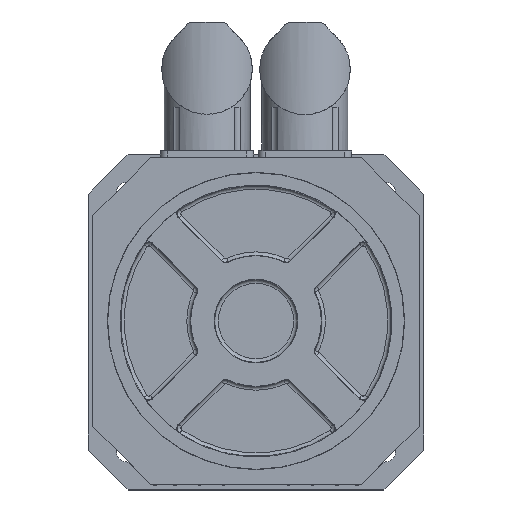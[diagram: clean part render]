
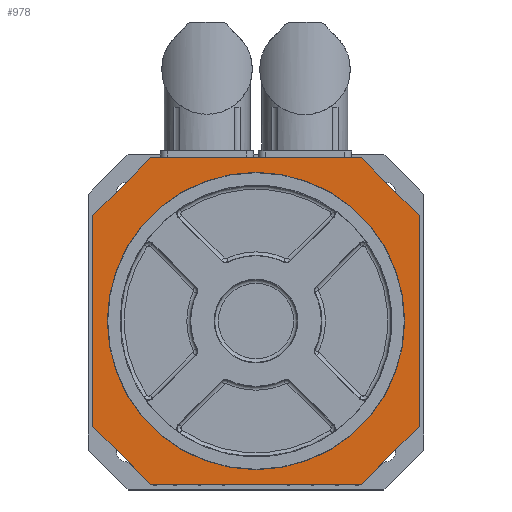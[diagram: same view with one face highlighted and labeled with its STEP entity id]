
A CAD part, top view. The second image highlights one B-rep face of the part: STEP entity #978.
In plain terms, the highlighted planar face has unit normal (0, 0, 1).
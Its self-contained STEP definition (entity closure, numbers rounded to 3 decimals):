
#689=FACE_BOUND('',#2008,.T.);
#785=PLANE('',#7645);
#978=ADVANCED_FACE('',(#689,#1589),#785,.T.);
#1589=FACE_OUTER_BOUND('',#2009,.T.);
#2008=EDGE_LOOP('',(#3912));
#2009=EDGE_LOOP('',(#3913,#3914,#3915,#3916,#3917,#3918,#3919,#3920));
#2498=LINE('',#11057,#2922);
#2499=LINE('',#11060,#2923);
#2500=LINE('',#11062,#2924);
#2501=LINE('',#11064,#2925);
#2502=LINE('',#11066,#2926);
#2503=LINE('',#11068,#2927);
#2504=LINE('',#11070,#2928);
#2505=LINE('',#11072,#2929);
#2922=VECTOR('',#8945,1.);
#2923=VECTOR('',#8946,1.);
#2924=VECTOR('',#8947,1.);
#2925=VECTOR('',#8948,1.);
#2926=VECTOR('',#8949,1.);
#2927=VECTOR('',#8950,1.);
#2928=VECTOR('',#8951,1.);
#2929=VECTOR('',#8952,1.);
#3912=ORIENTED_EDGE('',*,*,#6310,.F.);
#3913=ORIENTED_EDGE('',*,*,#6311,.F.);
#3914=ORIENTED_EDGE('',*,*,#6312,.T.);
#3915=ORIENTED_EDGE('',*,*,#6313,.F.);
#3916=ORIENTED_EDGE('',*,*,#6314,.T.);
#3917=ORIENTED_EDGE('',*,*,#6315,.F.);
#3918=ORIENTED_EDGE('',*,*,#6316,.F.);
#3919=ORIENTED_EDGE('',*,*,#6317,.F.);
#3920=ORIENTED_EDGE('',*,*,#6318,.F.);
#5496=VERTEX_POINT('',#11056);
#5497=VERTEX_POINT('',#11058);
#5498=VERTEX_POINT('',#11059);
#5499=VERTEX_POINT('',#11061);
#5500=VERTEX_POINT('',#11063);
#5501=VERTEX_POINT('',#11065);
#5502=VERTEX_POINT('',#11067);
#5503=VERTEX_POINT('',#11069);
#5504=VERTEX_POINT('',#11071);
#6310=EDGE_CURVE('',#5496,#5496,#7108,.T.);
#6311=EDGE_CURVE('',#5497,#5498,#2498,.T.);
#6312=EDGE_CURVE('',#5497,#5499,#2499,.T.);
#6313=EDGE_CURVE('',#5500,#5499,#2500,.T.);
#6314=EDGE_CURVE('',#5500,#5501,#2501,.T.);
#6315=EDGE_CURVE('',#5502,#5501,#2502,.T.);
#6316=EDGE_CURVE('',#5503,#5502,#2503,.T.);
#6317=EDGE_CURVE('',#5504,#5503,#2504,.T.);
#6318=EDGE_CURVE('',#5498,#5504,#2505,.T.);
#7108=CIRCLE('',#7644,41.);
#7644=AXIS2_PLACEMENT_3D('',#11055,#8943,#8944);
#7645=AXIS2_PLACEMENT_3D('',#11073,#8953,#8954);
#8943=DIRECTION('',(0.,0.,1.));
#8944=DIRECTION('',(1.,0.,0.));
#8945=DIRECTION('',(1.,0.,0.));
#8946=DIRECTION('',(-0.707,-0.707,0.));
#8947=DIRECTION('',(0.,1.,0.));
#8948=DIRECTION('',(0.707,-0.707,0.));
#8949=DIRECTION('',(-1.,0.,0.));
#8950=DIRECTION('',(-0.707,-0.707,0.));
#8951=DIRECTION('',(0.,-1.,0.));
#8952=DIRECTION('',(0.707,-0.707,0.));
#8953=DIRECTION('',(0.,0.,1.));
#8954=DIRECTION('',(1.,0.,0.));
#11055=CARTESIAN_POINT('',(0.,0.,-3.1));
#11056=CARTESIAN_POINT('',(41.,0.,-3.1));
#11057=CARTESIAN_POINT('',(0.,45.,-3.1));
#11058=CARTESIAN_POINT('',(-29.105,45.,-3.1));
#11059=CARTESIAN_POINT('',(29.105,45.,-3.1));
#11060=CARTESIAN_POINT('',(-37.052,37.052,-3.1));
#11061=CARTESIAN_POINT('',(-45.,29.105,-3.1));
#11062=CARTESIAN_POINT('',(-45.,0.,-3.1));
#11063=CARTESIAN_POINT('',(-45.,-29.105,-3.1));
#11064=CARTESIAN_POINT('',(-37.052,-37.052,-3.1));
#11065=CARTESIAN_POINT('',(-29.105,-45.,-3.1));
#11066=CARTESIAN_POINT('',(0.,-45.,-3.1));
#11067=CARTESIAN_POINT('',(29.105,-45.,-3.1));
#11068=CARTESIAN_POINT('',(37.052,-37.052,-3.1));
#11069=CARTESIAN_POINT('',(45.,-29.105,-3.1));
#11070=CARTESIAN_POINT('',(45.,0.,-3.1));
#11071=CARTESIAN_POINT('',(45.,29.105,-3.1));
#11072=CARTESIAN_POINT('',(37.052,37.052,-3.1));
#11073=CARTESIAN_POINT('',(0.,0.,-3.1));
